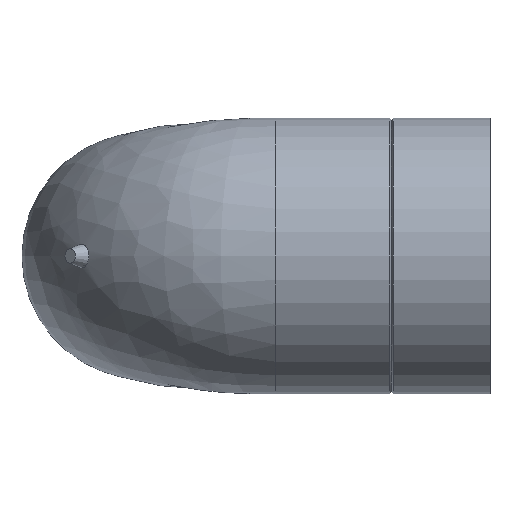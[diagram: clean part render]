
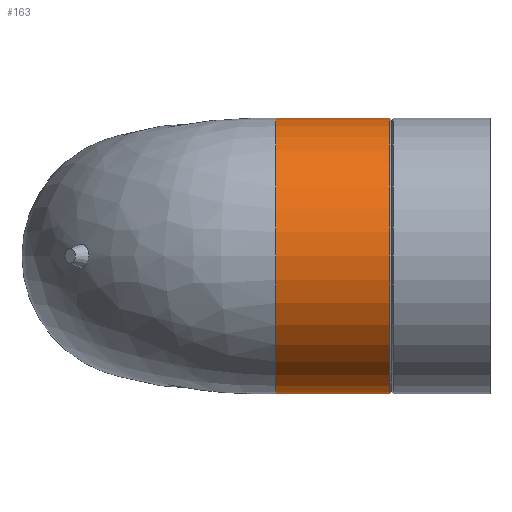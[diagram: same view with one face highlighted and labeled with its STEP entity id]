
A CAD part, left-side view. The second image highlights one B-rep face of the part: STEP entity #163.
In plain terms, the highlighted cylindrical face has radius 28 mm (diameter 56 mm), a full revolution.
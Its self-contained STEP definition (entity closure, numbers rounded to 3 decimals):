
#26=CYLINDRICAL_SURFACE($,#188,28.);
#34=FACE_BOUND($,#67,.T.);
#48=FACE_OUTER_BOUND($,#66,.T.);
#66=EDGE_LOOP($,(#143));
#67=EDGE_LOOP($,(#144));
#74=CIRCLE($,#171,28.);
#84=CIRCLE($,#187,28.);
#86=VERTEX_POINT($,#243);
#98=VERTEX_POINT($,#1012);
#100=EDGE_CURVE($,#86,#86,#74,.T.);
#115=EDGE_CURVE($,#98,#98,#84,.T.);
#143=ORIENTED_EDGE($,*,*,#100,.T.);
#144=ORIENTED_EDGE($,*,*,#115,.T.);
#163=ADVANCED_FACE($,(#48,#34),#26,.T.);
#171=AXIS2_PLACEMENT_3D($,#244,#197,#198);
#187=AXIS2_PLACEMENT_3D($,#1019,#229,#230);
#188=AXIS2_PLACEMENT_3D($,#1020,#231,#232);
#197=DIRECTION('center_axis',(0.,1.,0.));
#198=DIRECTION('ref_axis',(1.,0.,0.));
#229=DIRECTION('center_axis',(0.,-1.,0.));
#230=DIRECTION('ref_axis',(1.,0.,0.));
#231=DIRECTION('center_axis',(0.,1.,0.));
#232=DIRECTION('ref_axis',(1.,0.,0.));
#243=CARTESIAN_POINT('',(-28.,20.323,0.));
#244=CARTESIAN_POINT('Origin',(0.,20.323,0.));
#1012=CARTESIAN_POINT('',(-28.,43.5,0.));
#1019=CARTESIAN_POINT('Origin',(0.,43.5,0.));
#1020=CARTESIAN_POINT('Origin',(0.,0.,0.));
